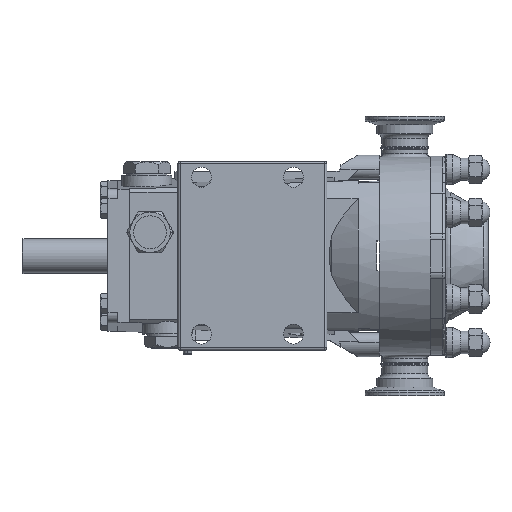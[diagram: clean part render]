
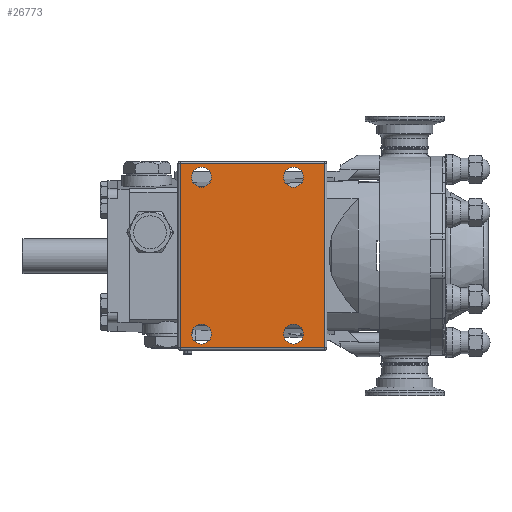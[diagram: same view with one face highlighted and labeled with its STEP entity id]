
A CAD part, top view. The second image highlights one B-rep face of the part: STEP entity #26773.
In plain terms, the highlighted planar face has unit normal (0, 0, 1).
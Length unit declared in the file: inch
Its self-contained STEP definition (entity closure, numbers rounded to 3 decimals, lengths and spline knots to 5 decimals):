
#151 = AXIS2_PLACEMENT_3D ( 'NONE', #3949, #24824, #32205 ) ;
#821 = CARTESIAN_POINT ( 'NONE',  ( -4.99, -2.375, 4.213 ) ) ;
#1397 = VERTEX_POINT ( 'NONE', #37767 ) ;
#1772 = DIRECTION ( 'NONE',  ( -1., 0., 0. ) ) ;
#2651 = FACE_OUTER_BOUND ( 'NONE', #25184, .T. ) ;
#2941 = VECTOR ( 'NONE', #22764, 39.37008 ) ;
#3837 = CIRCLE ( 'NONE', #28292, 0.25 ) ;
#3949 = CARTESIAN_POINT ( 'NONE',  ( -2.148, -1.969, 4.213 ) ) ;
#3994 = EDGE_CURVE ( 'NONE', #25024, #24701, #29480, .T. ) ;
#4009 = AXIS2_PLACEMENT_3D ( 'NONE', #28188, #7301, #42510 ) ;
#4147 = VERTEX_POINT ( 'NONE', #37703 ) ;
#4421 = EDGE_CURVE ( 'NONE', #19968, #23417, #10641, .T. ) ;
#5259 = CARTESIAN_POINT ( 'NONE',  ( -2.398, -1.969, 4.213 ) ) ;
#5461 = CARTESIAN_POINT ( 'NONE',  ( -4.71, -1.969, 4.213 ) ) ;
#6400 = CARTESIAN_POINT ( 'NONE',  ( -1.31, -2.375, 4.213 ) ) ;
#6439 = ORIENTED_EDGE ( 'NONE', *, *, #18816, .T. ) ;
#6634 = ORIENTED_EDGE ( 'NONE', *, *, #31839, .T. ) ;
#6703 = PLANE ( 'NONE',  #39043 ) ;
#6842 = VERTEX_POINT ( 'NONE', #5259 ) ;
#7301 = DIRECTION ( 'NONE',  ( 0., 0., -1. ) ) ;
#7386 = DIRECTION ( 'NONE',  ( -1., 0., 0. ) ) ;
#7835 = CARTESIAN_POINT ( 'NONE',  ( -2.148, 1.969, 4.213 ) ) ;
#8596 = DIRECTION ( 'NONE',  ( 1., 0., 0. ) ) ;
#9583 = EDGE_LOOP ( 'NONE', ( #10950, #6439 ) ) ;
#10203 = ORIENTED_EDGE ( 'NONE', *, *, #3994, .T. ) ;
#10412 = EDGE_CURVE ( 'NONE', #23417, #25024, #41789, .T. ) ;
#10460 = DIRECTION ( 'NONE',  ( -1., 0., 0. ) ) ;
#10641 = LINE ( 'NONE', #22566, #28337 ) ;
#10950 = ORIENTED_EDGE ( 'NONE', *, *, #24147, .T. ) ;
#12039 = FACE_BOUND ( 'NONE', #37100, .T. ) ;
#13179 = ORIENTED_EDGE ( 'NONE', *, *, #10412, .T. ) ;
#13722 = CARTESIAN_POINT ( 'NONE',  ( -4.71, 1.969, 4.213 ) ) ;
#13990 = CARTESIAN_POINT ( 'NONE',  ( -1.898, 1.969, 4.213 ) ) ;
#15000 = CIRCLE ( 'NONE', #40747, 0.25 ) ;
#15820 = CARTESIAN_POINT ( 'NONE',  ( -4.46, 1.969, 4.213 ) ) ;
#16265 = ORIENTED_EDGE ( 'NONE', *, *, #28713, .T. ) ;
#16905 = AXIS2_PLACEMENT_3D ( 'NONE', #42492, #24313, #31411 ) ;
#16920 = ORIENTED_EDGE ( 'NONE', *, *, #4421, .T. ) ;
#17465 = EDGE_CURVE ( 'NONE', #21620, #33714, #32192, .T. ) ;
#17607 = CIRCLE ( 'NONE', #4009, 0.25 ) ;
#17723 = DIRECTION ( 'NONE',  ( 1., 0., 0. ) ) ;
#17970 = CIRCLE ( 'NONE', #38446, 0.25 ) ;
#18816 = EDGE_CURVE ( 'NONE', #26853, #6842, #18834, .T. ) ;
#18834 = CIRCLE ( 'NONE', #151, 0.25 ) ;
#19015 = ORIENTED_EDGE ( 'NONE', *, *, #44398, .T. ) ;
#19886 = AXIS2_PLACEMENT_3D ( 'NONE', #7835, #39682, #7386 ) ;
#19968 = VERTEX_POINT ( 'NONE', #21963 ) ;
#20330 = EDGE_CURVE ( 'NONE', #37693, #1397, #17607, .T. ) ;
#20594 = CARTESIAN_POINT ( 'NONE',  ( -1.37, 2.375, 4.213 ) ) ;
#21139 = CARTESIAN_POINT ( 'NONE',  ( -2.148, -1.969, 4.213 ) ) ;
#21620 = VERTEX_POINT ( 'NONE', #29920 ) ;
#21652 = DIRECTION ( 'NONE',  ( 0., -1., 0. ) ) ;
#21780 = ORIENTED_EDGE ( 'NONE', *, *, #34801, .T. ) ;
#21821 = ORIENTED_EDGE ( 'NONE', *, *, #41984, .T. ) ;
#21963 = CARTESIAN_POINT ( 'NONE',  ( -4.99, -2.315, 4.213 ) ) ;
#22566 = CARTESIAN_POINT ( 'NONE',  ( -1.31, -2.315, 4.213 ) ) ;
#22764 = DIRECTION ( 'NONE',  ( -1., 0., 0. ) ) ;
#23071 = DIRECTION ( 'NONE',  ( 0., 0., -1. ) ) ;
#23231 = EDGE_LOOP ( 'NONE', ( #38620, #21821 ) ) ;
#23417 = VERTEX_POINT ( 'NONE', #28383 ) ;
#23660 = FACE_BOUND ( 'NONE', #43576, .T. ) ;
#24147 = EDGE_CURVE ( 'NONE', #6842, #26853, #15000, .T. ) ;
#24170 = ORIENTED_EDGE ( 'NONE', *, *, #17465, .T. ) ;
#24313 = DIRECTION ( 'NONE',  ( 0., 0., -1. ) ) ;
#24581 = CARTESIAN_POINT ( 'NONE',  ( -1.37, 2.315, 4.213 ) ) ;
#24701 = VERTEX_POINT ( 'NONE', #33075 ) ;
#24824 = DIRECTION ( 'NONE',  ( 0., 0., -1. ) ) ;
#25024 = VERTEX_POINT ( 'NONE', #24581 ) ;
#25184 = EDGE_LOOP ( 'NONE', ( #6634, #16920, #13179, #10203 ) ) ;
#25544 = AXIS2_PLACEMENT_3D ( 'NONE', #15820, #23071, #1772 ) ;
#25942 = LINE ( 'NONE', #821, #43580 ) ;
#26773 = ADVANCED_FACE ( 'NONE', ( #33026, #41326, #23660, #12039, #2651 ), #6703, .T. ) ;
#26853 = VERTEX_POINT ( 'NONE', #42239 ) ;
#27849 = VERTEX_POINT ( 'NONE', #13722 ) ;
#28188 = CARTESIAN_POINT ( 'NONE',  ( -4.46, -1.969, 4.213 ) ) ;
#28292 = AXIS2_PLACEMENT_3D ( 'NONE', #36638, #30445, #40185 ) ;
#28337 = VECTOR ( 'NONE', #8596, 39.37008 ) ;
#28383 = CARTESIAN_POINT ( 'NONE',  ( -1.37, -2.315, 4.213 ) ) ;
#28713 = EDGE_CURVE ( 'NONE', #27849, #4147, #44920, .T. ) ;
#29480 = LINE ( 'NONE', #43866, #2941 ) ;
#29920 = CARTESIAN_POINT ( 'NONE',  ( -2.398, 1.969, 4.213 ) ) ;
#30445 = DIRECTION ( 'NONE',  ( 0., 0., -1. ) ) ;
#30630 = DIRECTION ( 'NONE',  ( 0., 0., -1. ) ) ;
#31411 = DIRECTION ( 'NONE',  ( -1., 0., 0. ) ) ;
#31839 = EDGE_CURVE ( 'NONE', #24701, #19968, #25942, .T. ) ;
#32192 = CIRCLE ( 'NONE', #19886, 0.25 ) ;
#32205 = DIRECTION ( 'NONE',  ( -1., 0., 0. ) ) ;
#33026 = FACE_BOUND ( 'NONE', #9583, .T. ) ;
#33075 = CARTESIAN_POINT ( 'NONE',  ( -4.99, 2.315, 4.213 ) ) ;
#33714 = VERTEX_POINT ( 'NONE', #13990 ) ;
#34018 = DIRECTION ( 'NONE',  ( -1., 0., 0. ) ) ;
#34786 = DIRECTION ( 'NONE',  ( 0., 1., 0. ) ) ;
#34801 = EDGE_CURVE ( 'NONE', #4147, #27849, #17970, .T. ) ;
#36638 = CARTESIAN_POINT ( 'NONE',  ( -4.46, -1.969, 4.213 ) ) ;
#37100 = EDGE_LOOP ( 'NONE', ( #24170, #19015 ) ) ;
#37693 = VERTEX_POINT ( 'NONE', #5461 ) ;
#37703 = CARTESIAN_POINT ( 'NONE',  ( -4.21, 1.969, 4.213 ) ) ;
#37767 = CARTESIAN_POINT ( 'NONE',  ( -4.21, -1.969, 4.213 ) ) ;
#38446 = AXIS2_PLACEMENT_3D ( 'NONE', #44489, #30630, #34018 ) ;
#38620 = ORIENTED_EDGE ( 'NONE', *, *, #20330, .T. ) ;
#39043 = AXIS2_PLACEMENT_3D ( 'NONE', #6400, #42085, #17723 ) ;
#39682 = DIRECTION ( 'NONE',  ( 0., 0., -1. ) ) ;
#40185 = DIRECTION ( 'NONE',  ( -1., 0., 0. ) ) ;
#40747 = AXIS2_PLACEMENT_3D ( 'NONE', #21139, #42278, #10460 ) ;
#41326 = FACE_BOUND ( 'NONE', #23231, .T. ) ;
#41789 = LINE ( 'NONE', #20594, #45056 ) ;
#41984 = EDGE_CURVE ( 'NONE', #1397, #37693, #3837, .T. ) ;
#42085 = DIRECTION ( 'NONE',  ( 0., 0., 1. ) ) ;
#42239 = CARTESIAN_POINT ( 'NONE',  ( -1.898, -1.969, 4.213 ) ) ;
#42278 = DIRECTION ( 'NONE',  ( 0., 0., -1. ) ) ;
#42492 = CARTESIAN_POINT ( 'NONE',  ( -2.148, 1.969, 4.213 ) ) ;
#42510 = DIRECTION ( 'NONE',  ( -1., 0., 0. ) ) ;
#43197 = CIRCLE ( 'NONE', #16905, 0.25 ) ;
#43576 = EDGE_LOOP ( 'NONE', ( #16265, #21780 ) ) ;
#43580 = VECTOR ( 'NONE', #21652, 39.37008 ) ;
#43866 = CARTESIAN_POINT ( 'NONE',  ( -1.31, 2.315, 4.213 ) ) ;
#44398 = EDGE_CURVE ( 'NONE', #33714, #21620, #43197, .T. ) ;
#44489 = CARTESIAN_POINT ( 'NONE',  ( -4.46, 1.969, 4.213 ) ) ;
#44920 = CIRCLE ( 'NONE', #25544, 0.25 ) ;
#45056 = VECTOR ( 'NONE', #34786, 39.37008 ) ;
